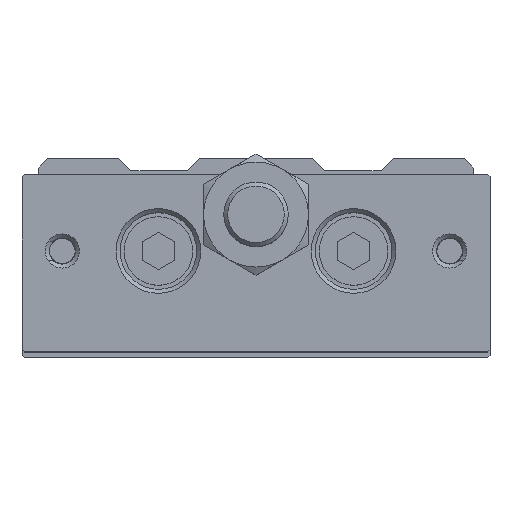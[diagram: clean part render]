
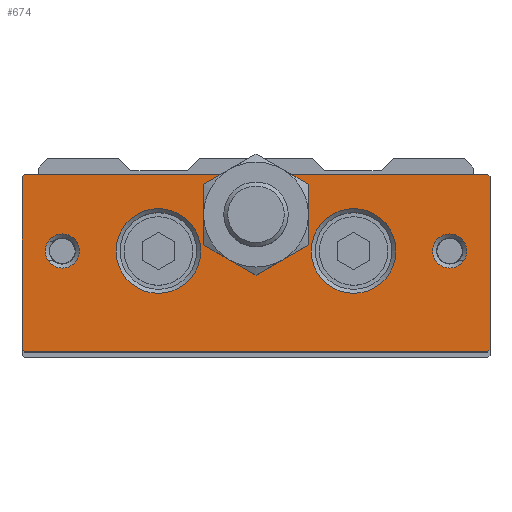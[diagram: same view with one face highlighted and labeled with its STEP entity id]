
A CAD part, top view. The second image highlights one B-rep face of the part: STEP entity #674.
In plain terms, the highlighted planar face has unit normal (0, 0, 1).
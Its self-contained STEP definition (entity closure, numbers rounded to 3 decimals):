
#455=CARTESIAN_POINT('',(-28.7,-13.,243.5));
#456=VERTEX_POINT('',#455);
#463=CARTESIAN_POINT('',(-29.,-12.7,243.5));
#464=VERTEX_POINT('',#463);
#465=CARTESIAN_POINT('',(-28.7,-13.,243.5));
#466=DIRECTION('',(-0.707,0.707,0.0));
#467=VECTOR('',#466,0.424);
#468=LINE('',#465,#467);
#469=EDGE_CURVE('',#456,#464,#468,.T.);
#486=CARTESIAN_POINT('',(-29.,8.7,243.5));
#487=VERTEX_POINT('',#486);
#488=CARTESIAN_POINT('',(-29.,8.7,243.5));
#489=DIRECTION('',(0.0,-1.0,0.0));
#490=VECTOR('',#489,21.4);
#491=LINE('',#488,#490);
#492=EDGE_CURVE('',#487,#464,#491,.T.);
#522=CARTESIAN_POINT('',(0.0,-13.,243.5));
#523=DIRECTION('',(0.0,0.0,1.0));
#524=DIRECTION('',(1.0,0.0,0.0));
#525=AXIS2_PLACEMENT_3D('',#522,#523,#524);
#526=PLANE('',#525);
#527=ORIENTED_EDGE('',*,*,#469,.F.);
#528=CARTESIAN_POINT('',(28.7,-13.,243.5));
#529=VERTEX_POINT('',#528);
#530=CARTESIAN_POINT('',(-28.7,-13.,243.5));
#531=DIRECTION('',(1.0,0.0,0.0));
#532=VECTOR('',#531,57.4);
#533=LINE('',#530,#532);
#534=EDGE_CURVE('',#456,#529,#533,.T.);
#535=ORIENTED_EDGE('',*,*,#534,.T.);
#536=CARTESIAN_POINT('',(29.,-12.7,243.5));
#537=VERTEX_POINT('',#536);
#538=CARTESIAN_POINT('',(29.,-12.7,243.5));
#539=DIRECTION('',(-0.707,-0.707,0.0));
#540=VECTOR('',#539,0.424);
#541=LINE('',#538,#540);
#542=EDGE_CURVE('',#537,#529,#541,.T.);
#543=ORIENTED_EDGE('',*,*,#542,.F.);
#544=CARTESIAN_POINT('',(29.,8.7,243.5));
#545=VERTEX_POINT('',#544);
#546=CARTESIAN_POINT('',(29.,-12.7,243.5));
#547=DIRECTION('',(0.0,1.0,0.0));
#548=VECTOR('',#547,21.4);
#549=LINE('',#546,#548);
#550=EDGE_CURVE('',#537,#545,#549,.T.);
#551=ORIENTED_EDGE('',*,*,#550,.T.);
#552=CARTESIAN_POINT('',(28.7,9.,243.5));
#553=VERTEX_POINT('',#552);
#554=CARTESIAN_POINT('',(28.7,9.,243.5));
#555=DIRECTION('',(0.707,-0.707,0.0));
#556=VECTOR('',#555,0.424);
#557=LINE('',#554,#556);
#558=EDGE_CURVE('',#553,#545,#557,.T.);
#559=ORIENTED_EDGE('',*,*,#558,.F.);
#560=CARTESIAN_POINT('',(4.153,9.,243.5));
#561=VERTEX_POINT('',#560);
#562=CARTESIAN_POINT('',(28.7,9.,243.5));
#563=DIRECTION('',(-1.0,0.0,0.0));
#564=VECTOR('',#563,24.547);
#565=LINE('',#562,#564);
#566=EDGE_CURVE('',#553,#561,#565,.T.);
#567=ORIENTED_EDGE('',*,*,#566,.T.);
#568=CARTESIAN_POINT('',(6.5,4.,243.5));
#569=VERTEX_POINT('',#568);
#570=CARTESIAN_POINT('',(0.0,4.,243.5));
#571=DIRECTION('',(0.0,0.0,1.0));
#572=DIRECTION('',(0.0,1.0,0.0));
#573=AXIS2_PLACEMENT_3D('',#570,#571,#572);
#574=CIRCLE('',#573,6.5);
#575=EDGE_CURVE('',#569,#561,#574,.T.);
#576=ORIENTED_EDGE('',*,*,#575,.F.);
#577=CARTESIAN_POINT('',(3.25,-1.629,243.5));
#578=VERTEX_POINT('',#577);
#579=CARTESIAN_POINT('',(0.0,4.,243.5));
#580=DIRECTION('',(0.0,0.0,1.0));
#581=DIRECTION('',(0.0,1.0,0.0));
#582=AXIS2_PLACEMENT_3D('',#579,#580,#581);
#583=CIRCLE('',#582,6.5);
#584=EDGE_CURVE('',#578,#569,#583,.T.);
#585=ORIENTED_EDGE('',*,*,#584,.F.);
#586=CARTESIAN_POINT('',(-3.25,-1.629,243.5));
#587=VERTEX_POINT('',#586);
#588=CARTESIAN_POINT('',(0.0,4.,243.5));
#589=DIRECTION('',(0.0,0.0,1.0));
#590=DIRECTION('',(0.0,1.0,0.0));
#591=AXIS2_PLACEMENT_3D('',#588,#589,#590);
#592=CIRCLE('',#591,6.5);
#593=EDGE_CURVE('',#587,#578,#592,.T.);
#594=ORIENTED_EDGE('',*,*,#593,.F.);
#595=CARTESIAN_POINT('',(-6.5,4.,243.5));
#596=VERTEX_POINT('',#595);
#597=CARTESIAN_POINT('',(0.0,4.,243.5));
#598=DIRECTION('',(0.0,0.0,1.0));
#599=DIRECTION('',(0.0,1.0,0.0));
#600=AXIS2_PLACEMENT_3D('',#597,#598,#599);
#601=CIRCLE('',#600,6.5);
#602=EDGE_CURVE('',#596,#587,#601,.T.);
#603=ORIENTED_EDGE('',*,*,#602,.F.);
#604=CARTESIAN_POINT('',(-4.153,9.,243.5));
#605=VERTEX_POINT('',#604);
#606=CARTESIAN_POINT('',(0.0,4.,243.5));
#607=DIRECTION('',(0.0,0.0,1.0));
#608=DIRECTION('',(0.0,1.0,0.0));
#609=AXIS2_PLACEMENT_3D('',#606,#607,#608);
#610=CIRCLE('',#609,6.5);
#611=EDGE_CURVE('',#605,#596,#610,.T.);
#612=ORIENTED_EDGE('',*,*,#611,.F.);
#613=CARTESIAN_POINT('',(-28.7,9.,243.5));
#614=VERTEX_POINT('',#613);
#615=CARTESIAN_POINT('',(-4.153,9.,243.5));
#616=DIRECTION('',(-1.0,0.0,0.0));
#617=VECTOR('',#616,24.547);
#618=LINE('',#615,#617);
#619=EDGE_CURVE('',#605,#614,#618,.T.);
#620=ORIENTED_EDGE('',*,*,#619,.T.);
#621=CARTESIAN_POINT('',(-29.,8.7,243.5));
#622=DIRECTION('',(0.707,0.707,0.0));
#623=VECTOR('',#622,0.424);
#624=LINE('',#621,#623);
#625=EDGE_CURVE('',#487,#614,#624,.T.);
#626=ORIENTED_EDGE('',*,*,#625,.F.);
#627=ORIENTED_EDGE('',*,*,#492,.T.);
#628=EDGE_LOOP('',(#527,#535,#543,#551,#559,#567,#576,#585,#594,#603,#612,#620,#626,#627));
#629=FACE_OUTER_BOUND('',#628,.T.);
#630=CARTESIAN_POINT('',(-21.879,-0.5,243.5));
#631=VERTEX_POINT('',#630);
#632=CARTESIAN_POINT('',(-24.,-0.5,243.5));
#633=DIRECTION('',(0.0,0.0,1.0));
#634=DIRECTION('',(-1.0,0.0,0.0));
#635=AXIS2_PLACEMENT_3D('',#632,#633,#634);
#636=CIRCLE('',#635,2.121);
#637=EDGE_CURVE('',#631,#631,#636,.T.);
#638=ORIENTED_EDGE('',*,*,#637,.F.);
#639=EDGE_LOOP('',(#638));
#640=FACE_BOUND('',#639,.T.);
#641=CARTESIAN_POINT('',(26.121,-0.5,243.5));
#642=VERTEX_POINT('',#641);
#643=CARTESIAN_POINT('',(24.,-0.5,243.5));
#644=DIRECTION('',(0.0,0.0,1.0));
#645=DIRECTION('',(-1.0,0.0,0.0));
#646=AXIS2_PLACEMENT_3D('',#643,#644,#645);
#647=CIRCLE('',#646,2.121);
#648=EDGE_CURVE('',#642,#642,#647,.T.);
#649=ORIENTED_EDGE('',*,*,#648,.F.);
#650=EDGE_LOOP('',(#649));
#651=FACE_BOUND('',#650,.T.);
#652=CARTESIAN_POINT('',(-6.85,-0.5,243.5));
#653=VERTEX_POINT('',#652);
#654=CARTESIAN_POINT('',(-12.1,-0.5,243.5));
#655=DIRECTION('',(0.0,0.0,1.0));
#656=DIRECTION('',(-1.0,0.0,0.0));
#657=AXIS2_PLACEMENT_3D('',#654,#655,#656);
#658=CIRCLE('',#657,5.25);
#659=EDGE_CURVE('',#653,#653,#658,.T.);
#660=ORIENTED_EDGE('',*,*,#659,.F.);
#661=EDGE_LOOP('',(#660));
#662=FACE_BOUND('',#661,.T.);
#663=CARTESIAN_POINT('',(17.35,-0.5,243.5));
#664=VERTEX_POINT('',#663);
#665=CARTESIAN_POINT('',(12.1,-0.5,243.5));
#666=DIRECTION('',(0.0,0.0,1.0));
#667=DIRECTION('',(-1.0,0.0,0.0));
#668=AXIS2_PLACEMENT_3D('',#665,#666,#667);
#669=CIRCLE('',#668,5.25);
#670=EDGE_CURVE('',#664,#664,#669,.T.);
#671=ORIENTED_EDGE('',*,*,#670,.F.);
#672=EDGE_LOOP('',(#671));
#673=FACE_BOUND('',#672,.T.);
#674=ADVANCED_FACE('',(#629,#640,#651,#662,#673),#526,.T.);
